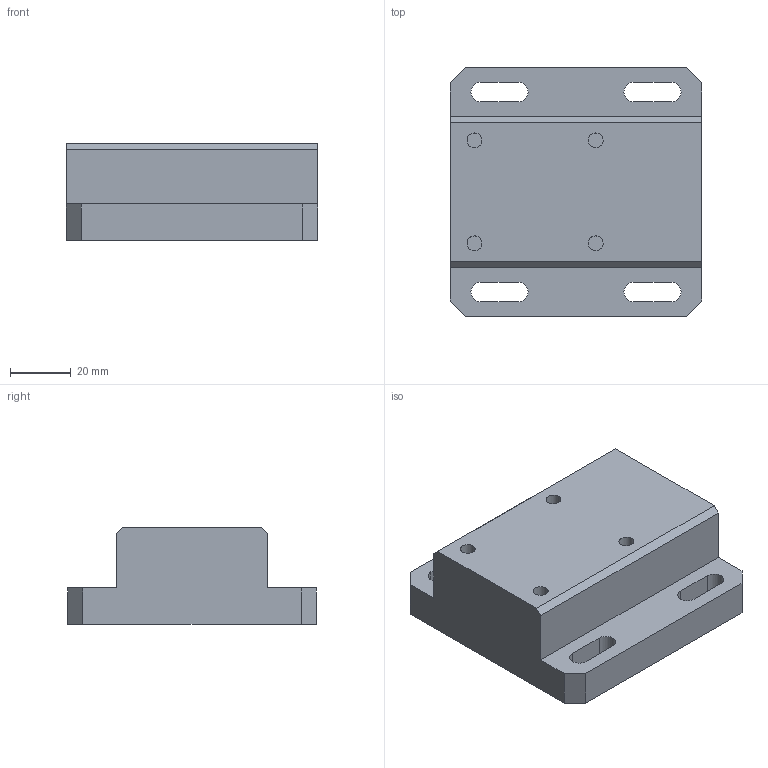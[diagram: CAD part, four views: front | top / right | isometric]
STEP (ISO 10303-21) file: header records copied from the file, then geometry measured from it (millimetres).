
FILE_DESCRIPTION(('CATIA V5 STEP Exchange'),'2;1');
FILE_NAME('D:\姚明阳\1、工装图纸\AGZ131\AGZ131.06_V1.stp','2025-02-06T03:50:12+00:00',('none'),('none'),'CATIA Version 5 Release 20 GA (IN-10)','CATIA V5 STEP AP203','none');
FILE_SCHEMA(('CONFIG_CONTROL_DESIGN'));
Length unit declared in the file: millimetre
Products named in the file (1): AGZ131.06_V1
Bounding box: 83 x 82 x 31.9 mm (x, y, z)
Volume: 156725.6 mm3; surface area: 24678.7 mm2
Topology: 1 solids, 1 shells, 44 faces, 114 edges, 76 vertices
Faces by surface type: plane 28, cylinder 16
Entity records: 1324 total; most frequent: ORIENTED_EDGE 228, CARTESIAN_POINT 227, DIRECTION 180, EDGE_CURVE 114, VECTOR 80, LINE 80, VERTEX_POINT 76, AXIS2_PLACEMENT_3D 67
